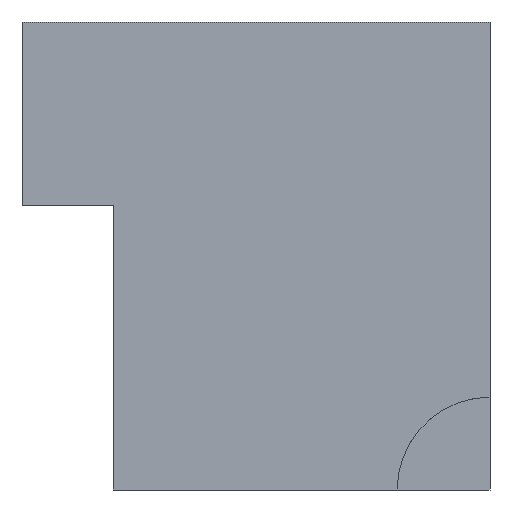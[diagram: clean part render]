
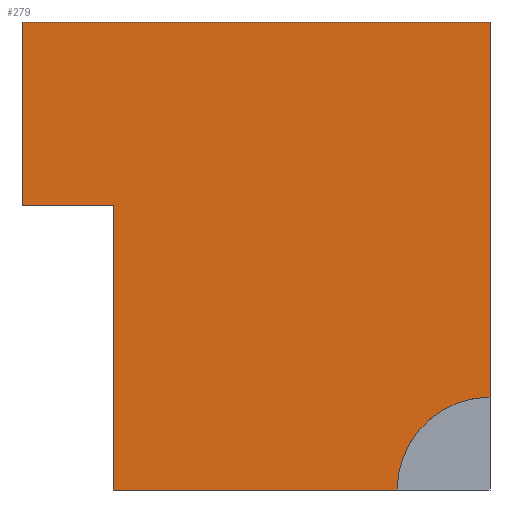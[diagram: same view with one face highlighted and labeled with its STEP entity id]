
A CAD part, left-side view. The second image highlights one B-rep face of the part: STEP entity #279.
In plain terms, the highlighted planar face has unit normal (-1, 0, 0).
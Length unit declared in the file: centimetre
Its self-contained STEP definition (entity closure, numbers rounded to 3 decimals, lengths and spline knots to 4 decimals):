
#46 = CARTESIAN_POINT ( 'NONE',  ( 0., 805.0577, 0. ) ) ;
#63 = VECTOR ( 'NONE', #669, 100. ) ;
#124 = EDGE_CURVE ( 'NONE', #1075, #810, #537, .T. ) ;
#157 = EDGE_CURVE ( 'NONE', #602, #1075, #454, .T. ) ;
#171 = VECTOR ( 'NONE', #697, 100. ) ;
#174 = CARTESIAN_POINT ( 'NONE',  ( 0., 0., 198.4563 ) ) ;
#232 = DIRECTION ( 'NONE',  ( 0., 0., -1. ) ) ;
#243 = CARTESIAN_POINT ( 'NONE',  ( 0., 1000., 1000. ) ) ;
#254 = AXIS2_PLACEMENT_3D ( 'NONE', #854, #415, #472 ) ;
#279 = ADVANCED_FACE ( 'NONE', ( #944 ), #334, .F. ) ;
#318 = VECTOR ( 'NONE', #363, 100. ) ;
#334 = PLANE ( 'NONE',  #254 ) ;
#363 = DIRECTION ( 'NONE',  ( 0., -1., 0. ) ) ;
#385 = ORIENTED_EDGE ( 'NONE', *, *, #626, .T. ) ;
#393 = ORIENTED_EDGE ( 'NONE', *, *, #157, .F. ) ;
#408 = LINE ( 'NONE', #493, #63 ) ;
#414 = DIRECTION ( 'NONE',  ( -1., 0., 0. ) ) ;
#415 = DIRECTION ( 'NONE',  ( 1., 0., 0. ) ) ;
#447 = ORIENTED_EDGE ( 'NONE', *, *, #1082, .F. ) ;
#449 = CARTESIAN_POINT ( 'NONE',  ( 0., 1000., 0. ) ) ;
#452 = CARTESIAN_POINT ( 'NONE',  ( 0., 1000., 1000. ) ) ;
#454 = LINE ( 'NONE', #243, #1007 ) ;
#472 = DIRECTION ( 'NONE',  ( 0., 0., -1. ) ) ;
#481 = DIRECTION ( 'NONE',  ( 0., 0., 1. ) ) ;
#493 = CARTESIAN_POINT ( 'NONE',  ( 0., 1000., 1000. ) ) ;
#502 = VECTOR ( 'NONE', #968, 100. ) ;
#506 = DIRECTION ( 'NONE',  ( 0., -1., 0. ) ) ;
#537 = LINE ( 'NONE', #1078, #502 ) ;
#602 = VERTEX_POINT ( 'NONE', #452 ) ;
#613 = ORIENTED_EDGE ( 'NONE', *, *, #124, .F. ) ;
#626 = EDGE_CURVE ( 'NONE', #775, #919, #670, .T. ) ;
#645 = VERTEX_POINT ( 'NONE', #773 ) ;
#669 = DIRECTION ( 'NONE',  ( 0., 0., -1. ) ) ;
#670 = LINE ( 'NONE', #680, #923 ) ;
#680 = CARTESIAN_POINT ( 'NONE',  ( 0., 805.0577, 608.3879 ) ) ;
#683 = EDGE_CURVE ( 'NONE', #810, #645, #1105, .T. ) ;
#694 = CARTESIAN_POINT ( 'NONE',  ( 0., 805.0577, 608.3879 ) ) ;
#697 = DIRECTION ( 'NONE',  ( 0., 1., 0. ) ) ;
#711 = ORIENTED_EDGE ( 'NONE', *, *, #984, .T. ) ;
#717 = AXIS2_PLACEMENT_3D ( 'NONE', #1015, #414, #481 ) ;
#723 = LINE ( 'NONE', #449, #318 ) ;
#773 = CARTESIAN_POINT ( 'NONE',  ( 0., 198.4563, 0. ) ) ;
#775 = VERTEX_POINT ( 'NONE', #694 ) ;
#781 = EDGE_LOOP ( 'NONE', ( #447, #385, #711, #902, #613, #393, #981 ) ) ;
#787 = LINE ( 'NONE', #952, #171 ) ;
#810 = VERTEX_POINT ( 'NONE', #174 ) ;
#854 = CARTESIAN_POINT ( 'NONE',  ( 0., 1000., 1000. ) ) ;
#896 = CARTESIAN_POINT ( 'NONE',  ( 0., 1000., 608.3879 ) ) ;
#902 = ORIENTED_EDGE ( 'NONE', *, *, #683, .F. ) ;
#919 = VERTEX_POINT ( 'NONE', #46 ) ;
#923 = VECTOR ( 'NONE', #232, 100. ) ;
#944 = FACE_OUTER_BOUND ( 'NONE', #781, .T. ) ;
#952 = CARTESIAN_POINT ( 'NONE',  ( 0., 805.0577, 608.3879 ) ) ;
#968 = DIRECTION ( 'NONE',  ( 0., 0., -1. ) ) ;
#981 = ORIENTED_EDGE ( 'NONE', *, *, #1014, .T. ) ;
#984 = EDGE_CURVE ( 'NONE', #919, #645, #723, .T. ) ;
#994 = VERTEX_POINT ( 'NONE', #896 ) ;
#1007 = VECTOR ( 'NONE', #506, 100. ) ;
#1014 = EDGE_CURVE ( 'NONE', #602, #994, #408, .T. ) ;
#1015 = CARTESIAN_POINT ( 'NONE',  ( 0., 0., 0. ) ) ;
#1041 = CARTESIAN_POINT ( 'NONE',  ( 0., 0., 1000. ) ) ;
#1075 = VERTEX_POINT ( 'NONE', #1041 ) ;
#1078 = CARTESIAN_POINT ( 'NONE',  ( 0., 0., 1000. ) ) ;
#1082 = EDGE_CURVE ( 'NONE', #775, #994, #787, .T. ) ;
#1105 = CIRCLE ( 'NONE', #717, 198.4563 ) ;
